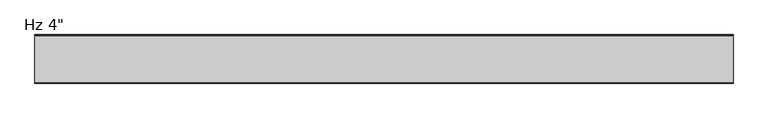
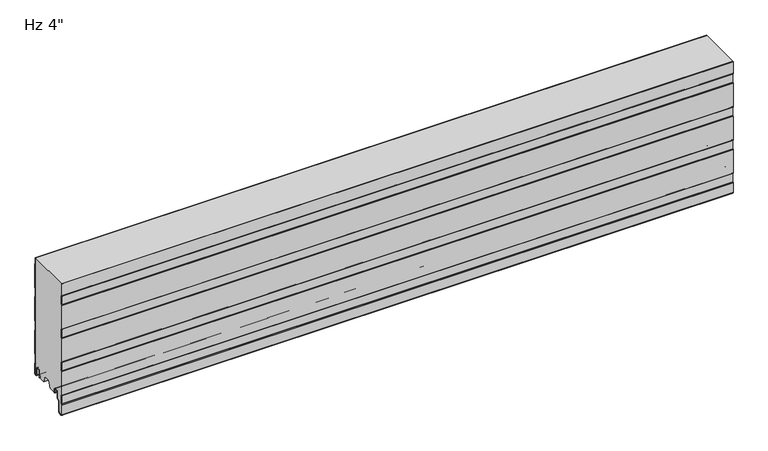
"""IFC4 building model written with IfcOpenShell, lengths in millimetres: plate geometry."""

from ifc_helpers import new_model, si_unit, point, frame, frame_2d, origin, place, context, project, spatial, polyline, circle_curve, trimmed, segment, composite_curve, outline, extrude, source, transform, mapped, element, save
from ifc_brep_helpers import plane_surface, cylinder_surface, revolved_surface, advanced_brep


def plate_778373fd(model_context):
    return source(origin(), model_context, "Body", "SolidModel", [
        extrude(outline(composite_curve([segment(trimmed(circle_curve(frame_2d((-2.3985037, -0.4487243)), 2.3999705), [point((-3.12e-05, -0.3639402))], [point((-2.3985037, -2.8486949))], False, "CARTESIAN"), True, "CONTINUOUS"), segment(polyline([(-2.3985037, -2.8486949), (-3.9516205, -2.8486949)]), True, "CONTINUOUS"), segment(trimmed(circle_curve(frame_2d((-3.9516205, 0.3613604)), 3.2100553), [point((-3.9516205, -2.8486949))], [point((-7.1616758, 0.3613604))], False, "CARTESIAN"), True, "CONTINUOUS"), segment(polyline([(-7.1616758, 0.3613604), (-7.1616758, 13.8905885)]), True, "CONTINUOUS"), segment(trimmed(circle_curve(frame_2d((-9.8816619, 13.8905885)), 2.7199861), [point((-7.1616758, 13.8905885))], [point((-9.8816619, 16.6105746))], True, "CARTESIAN"), True, "CONTINUOUS"), segment(polyline([(-9.8816619, 16.6105746), (-13.5282598, 16.6105746)]), True, "CONTINUOUS"), segment(trimmed(circle_curve(frame_2d((-13.5282598, 13.8905782)), 2.7199964), [point((-13.5282598, 16.6105746))], [point((-16.2482561, 13.8905782))], True, "CARTESIAN"), True, "CONTINUOUS"), segment(polyline([(-16.2482561, 13.8905782), (-16.2482561, 1.189897)]), True, "CONTINUOUS"), segment(trimmed(circle_curve(frame_2d((-17.7722572, 1.189897)), 1.524001), [point((-16.2482561, 1.189897))], [point((-19.2731052, 1.454537))], False, "CARTESIAN"), True, "CONTINUOUS"), segment(polyline([(-19.2731052, 1.454537), (-18.1704393, 7.7080661), (-17.2482561, 7.5454603), (-17.2482561, 13.8905782)]), True, "CONTINUOUS"), segment(trimmed(circle_curve(frame_2d((-13.5282598, 13.8905782)), 3.7199964), [point((-17.2482561, 13.8905782))], [point((-13.5282598, 17.6105746))], False, "CARTESIAN"), True, "CONTINUOUS"), segment(polyline([(-13.5282598, 17.6105746), (-9.8816619, 17.6105746)]), True, "CONTINUOUS"), segment(trimmed(circle_curve(frame_2d((-9.8816619, 13.8905885)), 3.7199861), [point((-9.8816619, 17.6105746))], [point((-6.1616758, 13.8905885))], False, "CARTESIAN"), True, "CONTINUOUS"), segment(polyline([(-6.1616758, 13.8905885), (-6.1616758, 0.3613604)]), True, "CONTINUOUS"), segment(trimmed(circle_curve(frame_2d((-3.9516205, 0.3613604)), 2.2100553), [point((-6.1616758, 0.3613604))], [point((-3.9516205, -1.8486949))], True, "CARTESIAN"), True, "CONTINUOUS"), segment(polyline([(-3.9516205, -1.8486949), (-2.3985037, -1.8486949)]), True, "CONTINUOUS"), segment(trimmed(circle_curve(frame_2d((-2.3985037, -0.4487243)), 1.3999705), [point((-2.3985037, -1.8486949))], [point((-1.0000312, -0.3839769))], True, "CARTESIAN"), True, "CONTINUOUS"), segment(polyline([(-1.0000312, -0.3839769), (-1.0000312, 22.2866086), (-2.2002516, 23.486829), (-2.2002516, 43.1222888), (-1.0000209, 44.3225195), (-1.0000209, 98.4864459), (-2.2002516, 99.6866766), (-2.2002516, 119.3221364), (-1.0000209, 120.5223671), (-1.0000209, 174.6698551), (-2.2002516, 175.8700858), (-2.2002516, 195.5055456), (-1.0000209, 196.7057763), (-1.0000209, 250.8532643), (-2.2002516, 252.0534951), (-2.2002516, 266.4), (-1.2002516, 266.4), (-1.2002516, 252.4677086), (-2.09e-05, 251.2674779), (-2.09e-05, 196.2915628), (-1.2002516, 195.091332), (-1.2002516, 176.2842994), (-2.09e-05, 175.0840687), (-2.09e-05, 120.1081535), (-1.2002516, 118.9079228), (-1.2002516, 100.1008902), (-2.09e-05, 98.9006594), (-2.09e-05, 43.9083059), (-1.2002516, 42.7080752), (-1.2002516, 23.9010426), (-3.12e-05, 22.7008222), (-3.12e-05, -0.3639402)]), True, "CONTINUOUS")], self_intersect=False)), frame((-730.0, 0.0, 0.0), z_axis=(1.0, 0.0, 0.0), x_axis=(0.0, 1.0, 0.0)), (0.0, 0.0, 1.0), 1460.0),
        extrude(outline(composite_curve([segment(trimmed(circle_curve(frame_2d((-73.305791, 0.8654988)), 1.2), [point((-72.105792, 0.8670134))], [point((-74.5042756, 0.8052116))], False, "CARTESIAN"), True, "CONTINUOUS"), segment(polyline([(-74.5042756, 0.8052116), (-74.5042756, 7.3245305)]), True, "CONTINUOUS"), segment(trimmed(circle_curve(frame_2d((-76.8542755, 7.3245305)), 2.3499999), [point((-74.5042756, 7.3245305))], [point((-76.8542755, 9.6745305))], True, "CARTESIAN"), True, "CONTINUOUS"), segment(polyline([(-76.8542755, 9.6745305), (-81.2542753, 9.6745305)]), True, "CONTINUOUS"), segment(trimmed(circle_curve(frame_2d((-81.2542753, 7.3245305)), 2.3499999), [point((-81.2542753, 9.6745305))], [point((-83.6042752, 7.3245305))], True, "CARTESIAN"), True, "CONTINUOUS"), segment(polyline([(-83.6042752, 7.3245305), (-83.6042752, -4.4863817)]), True, "CONTINUOUS"), segment(trimmed(circle_curve(frame_2d((-86.3042752, -4.4863817)), 2.7), [point((-83.6042752, -4.4863817))], [point((-84.3950869, -6.39557))], False, "CARTESIAN"), True, "CONTINUOUS"), segment(polyline([(-84.3950869, -6.39557), (-89.1356458, -11.1361289)]), True, "CONTINUOUS"), segment(trimmed(circle_curve(frame_2d((-88.004275, -12.2674998)), 1.6), [point((-89.1356458, -11.1361289))], [point((-89.604275, -12.2674998))], True, "CARTESIAN"), True, "CONTINUOUS"), segment(polyline([(-89.604275, -12.2674998), (-89.604275, -33.274257)]), True, "CONTINUOUS"), segment(trimmed(circle_curve(frame_2d((-93.304275, -33.274257)), 3.7), [point((-89.604275, -33.274257))], [point((-92.9815079, -36.960152))], False, "CARTESIAN"), True, "CONTINUOUS"), segment(polyline([(-92.9815079, -36.960152), (-97.7284964, -37.3758371)]), True, "CONTINUOUS"), segment(trimmed(circle_curve(frame_2d((-98.0391075, -33.8287598)), 3.5606512), [point((-97.7284964, -37.3758371))], [point((-101.5997587, -33.8287598))], False, "CARTESIAN"), True, "CONTINUOUS"), segment(polyline([(-101.5997587, -33.8287598), (-101.5997587, -12.0182355)]), True, "CONTINUOUS"), segment(trimmed(circle_curve(frame_2d((-100.1998926, -12.0182355)), 1.3998661), [point((-101.5997587, -12.0182355))], [point((-101.1325164, -10.9742825))], False, "CARTESIAN"), True, "CONTINUOUS"), segment(polyline([(-101.1325164, -10.9742825), (-100.3997902, -10.2415563), (-100.3997902, 8.6494291), (-101.1327558, 9.3823947)]), True, "CONTINUOUS"), segment(trimmed(circle_curve(frame_2d((-100.2000446, 10.4264455)), 1.3999972), [point((-101.1327558, 9.3823947))], [point((-101.6000209, 10.4340987))], False, "CARTESIAN"), True, "CONTINUOUS"), segment(polyline([(-101.6000209, 10.4340987), (-101.6000209, 64.1816121)]), True, "CONTINUOUS"), segment(trimmed(circle_curve(frame_2d((-100.2000237, 64.1816121)), 1.3999972), [point((-101.6000209, 64.1816121))], [point((-101.1327348, 65.2256628))], False, "CARTESIAN"), True, "CONTINUOUS"), segment(polyline([(-101.1327348, 65.2256628), (-100.3997902, 65.9586075), (-100.3997902, 84.8492767), (-101.1327558, 85.5822423)]), True, "CONTINUOUS"), segment(trimmed(circle_curve(frame_2d((-100.2000446, 86.6262931)), 1.3999972), [point((-101.1327558, 85.5822423))], [point((-101.6000209, 86.6339463))], False, "CARTESIAN"), True, "CONTINUOUS"), segment(polyline([(-101.6000209, 86.6339463), (-101.6000209, 140.3814597)]), True, "CONTINUOUS"), segment(trimmed(circle_curve(frame_2d((-100.2000237, 140.3814597)), 1.3999972), [point((-101.6000209, 140.3814597))], [point((-101.1327348, 141.4255104))], False, "CARTESIAN"), True, "CONTINUOUS"), segment(polyline([(-101.1327348, 141.4255104), (-100.3997902, 142.1584551), (-100.3997902, 161.0491243), (-101.1327558, 161.7820899)]), True, "CONTINUOUS"), segment(trimmed(circle_curve(frame_2d((-100.2000446, 162.8261407)), 1.3999972), [point((-101.1327558, 161.7820899))], [point((-101.6000209, 162.8337939))], False, "CARTESIAN"), True, "CONTINUOUS"), segment(polyline([(-101.6000209, 162.8337939), (-101.6000209, 216.5813073)]), True, "CONTINUOUS"), segment(trimmed(circle_curve(frame_2d((-100.2000237, 216.5813073)), 1.3999972), [point((-101.6000209, 216.5813073))], [point((-101.1327348, 217.625358))], False, "CARTESIAN"), True, "CONTINUOUS"), segment(polyline([(-101.1327348, 217.625358), (-100.3997902, 218.3583027), (-100.3997902, 237.2489719), (-101.1327558, 237.9819375)]), True, "CONTINUOUS"), segment(trimmed(circle_curve(frame_2d((-100.2000446, 239.0259883)), 1.3999972), [point((-101.1327558, 237.9819375))], [point((-101.6000209, 239.0336415))], False, "CARTESIAN"), True, "CONTINUOUS"), segment(polyline([(-101.6000209, 239.0336415), (-101.6000209, 266.4), (-100.6000209, 266.4), (-100.6000209, 238.8638905), (-99.3997902, 237.6636597), (-99.3997902, 217.9442472), (-100.6000209, 216.7440165), (-100.6000209, 162.6638848), (-99.3997902, 161.4636541), (-99.3997902, 141.7442416), (-100.6000209, 140.5440108), (-100.6000209, 86.4638791), (-99.3997902, 85.2636484), (-99.3997902, 65.5442359), (-100.6000209, 64.3440052), (-100.6000209, 10.2638734), (-99.3997902, 9.0636427), (-99.3997902, -10.6557698), (-100.5997587, -11.8557384), (-100.5997587, -33.8287598)]), True, "CONTINUOUS"), segment(trimmed(circle_curve(frame_2d((-98.0391075, -33.8287598)), 2.5606512), [point((-100.5997587, -33.8287598))], [point((-97.8157308, -36.3796493))], True, "CARTESIAN"), True, "CONTINUOUS"), segment(polyline([(-97.8157308, -36.3796493), (-93.0687422, -35.9639641)]), True, "CONTINUOUS"), segment(trimmed(circle_curve(frame_2d((-93.304275, -33.274257)), 2.7), [point((-93.0687422, -35.9639641))], [point((-90.604275, -33.274257))], True, "CARTESIAN"), True, "CONTINUOUS"), segment(polyline([(-90.604275, -33.274257), (-90.604275, -12.2674998)]), True, "CONTINUOUS"), segment(trimmed(circle_curve(frame_2d((-88.004275, -12.2674998)), 2.6), [point((-90.604275, -12.2674998))], [point((-89.8427526, -10.4290221))], False, "CARTESIAN"), True, "CONTINUOUS"), segment(polyline([(-89.8427526, -10.4290221), (-85.1021937, -5.6884632)]), True, "CONTINUOUS"), segment(trimmed(circle_curve(frame_2d((-86.3042752, -4.4863817)), 1.7), [point((-85.1021937, -5.6884632))], [point((-84.6042752, -4.4863817))], True, "CARTESIAN"), True, "CONTINUOUS"), segment(polyline([(-84.6042752, -4.4863817), (-84.6042752, 7.3245305)]), True, "CONTINUOUS"), segment(trimmed(circle_curve(frame_2d((-81.2542753, 7.3245305)), 3.3499999), [point((-84.6042752, 7.3245305))], [point((-81.2542753, 10.6745305))], False, "CARTESIAN"), True, "CONTINUOUS"), segment(polyline([(-81.2542753, 10.6745305), (-76.8542755, 10.6745305)]), True, "CONTINUOUS"), segment(trimmed(circle_curve(frame_2d((-76.8542755, 7.3245305)), 3.3499999), [point((-76.8542755, 10.6745305))], [point((-73.5042756, 7.3245305))], False, "CARTESIAN"), True, "CONTINUOUS"), segment(polyline([(-73.5042756, 7.3245305), (-73.5042756, 4.6254142), (-72.105792, 4.6254142), (-72.105792, 0.8670134)]), True, "CONTINUOUS")], self_intersect=False)), frame((-730.0, 0.0, 0.0), z_axis=(1.0, 0.0, 0.0), x_axis=(0.0, 1.0, 0.0)), (0.0, 0.0, 1.0), 1460.0),
        advanced_brep(
        [(-730.0, -73.5042756, 7.3245305), (-730.0, -76.8542755, 10.6745305), (-730.0, -81.2542753, 10.6745305), (-730.0, -84.6042752, 7.3245305), (-730.0, -84.6042752, -4.4863817), (-730.0, -85.1021937, -5.6884632), (-730.0, -89.8427526, -10.4290221), (-730.0, -90.604275, -12.2674998), (-730.0, -90.604275, -33.274257), (-730.0, -93.0687422, -35.9639641), (-730.0, -97.8157308, -36.3796493), (-730.0, -100.5997587, -33.8287598), (-730.0, -100.5997587, -11.8557384), (-730.0, -99.3997902, -10.6557698), (-730.0, -99.3997902, 9.0636427), (-730.0, -100.6000209, 10.2638734), (-730.0, -100.6000209, 64.3440052), (-730.0, -99.3997902, 65.5442359), (-730.0, -99.3997902, 85.2636484), (-730.0, -100.6000209, 86.4638791), (-730.0, -100.6000209, 140.5440108), (-730.0, -99.3997902, 141.7442416), (-730.0, -99.3997902, 161.4636541), (-730.0, -100.6000209, 162.6638848), (-730.0, -100.6000209, 216.7440165), (-730.0, -99.3997902, 217.9442472), (-730.0, -99.3997902, 237.6636597), (-730.0, -100.6000209, 238.8638905), (-730.0, -100.6000209, 266.4), (-730.0, -2.2002516, 266.4), (-730.0, -2.2002516, 252.0534951), (-730.0, -1.0000209, 250.8532643), (-730.0, -1.0000209, 196.7057763), (-730.0, -2.2002516, 195.5055456), (-730.0, -2.2002516, 175.8700858), (-730.0, -1.0000209, 174.6698551), (-730.0, -1.0000209, 120.5223671), (-730.0, -2.2002516, 119.3221364), (-730.0, -2.2002516, 99.6866766), (-730.0, -1.0000209, 98.4864459), (-730.0, -1.0000209, 44.3225195), (-730.0, -2.2002516, 43.1222888), (-730.0, -2.2002516, 23.486829), (-730.0, -1.0000312, 22.2866086), (-730.0, -1.0000312, -0.3839769), (-730.0, -2.3985037, -1.8486949), (-730.0, -3.9516205, -1.8486949), (-730.0, -6.1616758, 0.3613604), (-730.0, -6.1616758, 13.8905885), (-730.0, -9.8816619, 17.6105746), (-730.0, -13.5282598, 17.6105746), (-730.0, -17.2482561, 13.8905782), (-730.0, -17.2482561, 7.5454603), (-730.0, -18.1704393, 7.7080661), (-730.0, -19.2731052, 1.454537), (-730.0, -18.724478, 0.0), (-730.0, -33.5050787, 0.0), (-730.0, -39.1301227, 14.9979533), (-730.0, -51.7686274, 14.9979533), (-730.0, -57.3925929, 0.0), (-730.0, -72.47458, 0.0), (-730.0, -72.105792, 0.8670134), (-730.0, -72.105792, 4.6254142), (-730.0, -73.5042756, 4.6254142), (730.0, -73.5042756, 7.3245305), (730.0, -73.5042756, 4.6254142), (730.0, -72.105792, 4.6254142), (730.0, -72.105792, 0.8670134), (730.0, -72.47458, 0.0), (730.0, -57.3925929, 0.0), (730.0, -51.7683653, 14.9979533), (730.0, -39.1301227, 14.9979533), (730.0, -33.5050787, 0.0), (730.0, -18.724478, 0.0), (730.0, -19.2731052, 1.454537), (730.0, -18.1704393, 7.7080661), (730.0, -17.2482561, 7.5454603), (730.0, -17.2482561, 13.8905782), (730.0, -13.5282598, 17.6105746), (730.0, -9.8816619, 17.6105746), (730.0, -6.1616758, 13.8905885), (730.0, -6.1616758, 0.3613604), (730.0, -3.9516205, -1.8486949), (730.0, -2.3985037, -1.8486949), (730.0, -1.0000312, -0.3839769), (730.0, -1.0000312, 22.2866086), (730.0, -2.2002516, 23.486829), (730.0, -2.2002516, 43.1222888), (730.0, -1.0000209, 44.3225195), (730.0, -1.0000209, 98.4864459), (730.0, -2.2002516, 99.6866766), (730.0, -2.2002516, 119.3221364), (730.0, -1.0000209, 120.5223671), (730.0, -1.0000209, 174.6698551), (730.0, -2.2002516, 175.8700858), (730.0, -2.2002516, 195.5055456), (730.0, -1.0000209, 196.7057763), (730.0, -1.0000209, 250.8532643), (730.0, -2.2002516, 252.0534951), (730.0, -2.2002516, 266.4), (730.0, -100.6000209, 266.4), (730.0, -100.6000209, 238.8638905), (730.0, -99.3997902, 237.6636597), (730.0, -99.3997902, 217.9442472), (730.0, -100.6000209, 216.7440165), (730.0, -100.6000209, 162.6638848), (730.0, -99.3997902, 161.4636541), (730.0, -99.3997902, 141.7442416), (730.0, -100.6000209, 140.5440108), (730.0, -100.6000209, 86.4638791), (730.0, -99.3997902, 85.2636484), (730.0, -99.3997902, 65.5442359), (730.0, -100.6000209, 64.3440052), (730.0, -100.6000209, 10.2638734), (730.0, -99.3997902, 9.0636427), (730.0, -99.3997902, -10.6557698), (730.0, -100.5997587, -11.8557384), (730.0, -100.5997587, -33.8287598), (730.0, -97.8157308, -36.3796493), (730.0, -93.0687422, -35.9639641), (730.0, -90.604275, -33.274257), (730.0, -90.604275, -12.2674998), (730.0, -89.8427526, -10.4290221), (730.0, -85.1021937, -5.6884632), (730.0, -84.6042752, -4.4863817), (730.0, -84.6042752, 7.3245305), (730.0, -81.2542753, 10.6745305), (730.0, -76.8542755, 10.6745305)],
        [
            (0, 1, circle_curve(frame((-730.0, -76.8542755, 7.3245305), z_axis=(1.0, 0.0, 0.0), x_axis=(0.0, 0.0, -1.0)), 3.3499999)),
            (1, 2),
            (2, 3, circle_curve(frame((-730.0, -81.2542753, 7.3245305), z_axis=(1.0, 0.0, 0.0), x_axis=(0.0, 0.0, -1.0)), 3.3499999)),
            (3, 4),
            (4, 5, circle_curve(frame((-730.0, -86.3042752, -4.4863817), z_axis=(-1.0, 0.0, 0.0), x_axis=(0.0, 0.0, -1.0)), 1.7)),
            (5, 6),
            (6, 7, circle_curve(frame((-730.0, -88.004275, -12.2674998), z_axis=(1.0, 0.0, 0.0), x_axis=(0.0, 0.0, -1.0)), 2.6)),
            (7, 8),
            (8, 9, circle_curve(frame((-730.0, -93.304275, -33.274257), z_axis=(-1.0, 0.0, 0.0), x_axis=(0.0, 0.0, -1.0)), 2.7)),
            (9, 10),
            (10, 11, circle_curve(frame((-730.0, -98.0391075, -33.8287598), z_axis=(-1.0, 0.0, 0.0), x_axis=(0.0, 0.0, -1.0)), 2.5606512)),
            (11, 12),
            (12, 13),
            (13, 14),
            (14, 15),
            (15, 16),
            (16, 17),
            (17, 18),
            (18, 19),
            (19, 20),
            (20, 21),
            (21, 22),
            (22, 23),
            (23, 24),
            (24, 25),
            (25, 26),
            (26, 27),
            (27, 28),
            (28, 29),
            (29, 30),
            (30, 31),
            (31, 32),
            (32, 33),
            (33, 34),
            (34, 35),
            (35, 36),
            (36, 37),
            (37, 38),
            (38, 39),
            (39, 40),
            (40, 41),
            (41, 42),
            (42, 43),
            (43, 44),
            (44, 45, circle_curve(frame((-730.0, -2.3985037, -0.4487243), z_axis=(-1.0, 0.0, 0.0), x_axis=(0.0, 0.0, -1.0)), 1.3999705)),
            (45, 46),
            (46, 47, circle_curve(frame((-730.0, -3.9516205, 0.3613604), z_axis=(-1.0, 0.0, 0.0), x_axis=(0.0, 0.0, -1.0)), 2.2100553)),
            (47, 48),
            (48, 49, circle_curve(frame((-730.0, -9.8816619, 13.8905885), z_axis=(1.0, 0.0, 0.0), x_axis=(0.0, 0.0, -1.0)), 3.7199861)),
            (49, 50),
            (50, 51, circle_curve(frame((-730.0, -13.5282598, 13.8905782), z_axis=(1.0, 0.0, 0.0), x_axis=(0.0, 0.0, -1.0)), 3.7199964)),
            (51, 52),
            (52, 53),
            (53, 54),
            (54, 55, circle_curve(frame((-730.0, -17.7722572, 1.189897), z_axis=(1.0, 0.0, 0.0), x_axis=(0.0, 0.0, -1.0)), 1.524001)),
            (55, 56),
            (56, 57),
            (57, 58),
            (58, 59),
            (59, 60),
            (60, 61, circle_curve(frame((-730.0, -73.305791, 0.8654988), z_axis=(1.0, 0.0, 0.0), x_axis=(0.0, 0.0, -1.0)), 1.2)),
            (61, 62),
            (62, 63),
            (63, 0),
            (64, 65),
            (65, 66),
            (66, 67),
            (67, 68, circle_curve(frame((730.0, -73.305791, 0.8654988), z_axis=(-1.0, 0.0, 0.0), x_axis=(0.0, 0.0, -1.0)), 1.2)),
            (68, 69),
            (69, 70),
            (70, 71),
            (71, 72),
            (72, 73),
            (73, 74, circle_curve(frame((730.0, -17.7722572, 1.189897), z_axis=(-1.0, 0.0, 0.0), x_axis=(0.0, 0.0, -1.0)), 1.524001)),
            (74, 75),
            (75, 76),
            (76, 77),
            (77, 78, circle_curve(frame((730.0, -13.5282598, 13.8905782), z_axis=(-1.0, 0.0, 0.0), x_axis=(0.0, 0.0, -1.0)), 3.7199964)),
            (78, 79),
            (79, 80, circle_curve(frame((730.0, -9.8816619, 13.8905885), z_axis=(-1.0, 0.0, 0.0), x_axis=(0.0, 0.0, -1.0)), 3.7199861)),
            (80, 81),
            (81, 82, circle_curve(frame((730.0, -3.9516205, 0.3613604), z_axis=(1.0, 0.0, 0.0), x_axis=(0.0, 0.0, -1.0)), 2.2100553)),
            (82, 83),
            (83, 84, circle_curve(frame((730.0, -2.3985037, -0.4487243), z_axis=(1.0, 0.0, 0.0), x_axis=(0.0, 0.0, -1.0)), 1.3999705)),
            (84, 85),
            (85, 86),
            (86, 87),
            (87, 88),
            (88, 89),
            (89, 90),
            (90, 91),
            (91, 92),
            (92, 93),
            (93, 94),
            (94, 95),
            (95, 96),
            (96, 97),
            (97, 98),
            (98, 99),
            (99, 100),
            (100, 101),
            (101, 102),
            (102, 103),
            (103, 104),
            (104, 105),
            (105, 106),
            (106, 107),
            (107, 108),
            (108, 109),
            (109, 110),
            (110, 111),
            (111, 112),
            (112, 113),
            (113, 114),
            (114, 115),
            (115, 116),
            (116, 117),
            (117, 118, circle_curve(frame((730.0, -98.0391075, -33.8287598), z_axis=(1.0, 0.0, 0.0), x_axis=(0.0, 0.0, -1.0)), 2.5606512)),
            (118, 119),
            (119, 120, circle_curve(frame((730.0, -93.304275, -33.274257), z_axis=(1.0, 0.0, 0.0), x_axis=(0.0, 0.0, -1.0)), 2.7)),
            (120, 121),
            (121, 122, circle_curve(frame((730.0, -88.004275, -12.2674998), z_axis=(-1.0, 0.0, 0.0), x_axis=(0.0, 0.0, -1.0)), 2.6)),
            (122, 123),
            (123, 124, circle_curve(frame((730.0, -86.3042752, -4.4863817), z_axis=(1.0, 0.0, 0.0), x_axis=(0.0, 0.0, -1.0)), 1.7)),
            (124, 125),
            (125, 126, circle_curve(frame((730.0, -81.2542753, 7.3245305), z_axis=(-1.0, 0.0, 0.0), x_axis=(0.0, 0.0, -1.0)), 3.3499999)),
            (126, 127),
            (127, 64, circle_curve(frame((730.0, -76.8542755, 7.3245305), z_axis=(-1.0, 0.0, 0.0), x_axis=(0.0, 0.0, -1.0)), 3.3499999)),
            (48, 80),
            (79, 49),
            (47, 81),
            (46, 82),
            (45, 83),
            (44, 84),
            (43, 85),
            (42, 86),
            (41, 87),
            (40, 88),
            (39, 89),
            (38, 90),
            (37, 91),
            (36, 92),
            (35, 93),
            (34, 94),
            (33, 95),
            (32, 96),
            (31, 97),
            (30, 98),
            (29, 99),
            (56, 72),
            (71, 57),
            (55, 73),
            (54, 74),
            (53, 75),
            (52, 76),
            (51, 77),
            (50, 78),
            (70, 58),
            (0, 64),
            (127, 1),
            (63, 65),
            (62, 66),
            (61, 67),
            (60, 68),
            (10, 118),
            (117, 11),
            (9, 119),
            (8, 120),
            (7, 121),
            (6, 122),
            (5, 123),
            (4, 124),
            (3, 125),
            (2, 126),
            (59, 69),
            (116, 12),
            (13, 115),
            (114, 14),
            (113, 15),
            (112, 16),
            (17, 111),
            (110, 18),
            (109, 19),
            (108, 20),
            (21, 107),
            (106, 22),
            (105, 23),
            (104, 24),
            (25, 103),
            (102, 26),
            (101, 27),
            (100, 28),
        ],
        [
            plane_surface(frame((-730.0, -100.6000209, 532.8637656), z_axis=(-1.0, 0.0, 0.0), x_axis=(0.0, -1.0, 0.0))),
            plane_surface(frame((730.0, -100.6000209, 532.8637656), z_axis=(1.0, 0.0, 0.0), x_axis=(0.0, -1.0, 0.0))),
            revolved_surface(polyline([(730.0, -9.8816619, 10.1706024), (-730.0, -9.8816619, 10.1706024)]), (-730.0, -9.8816619, 13.8905885), (1.0, 0.0, 0.0)),
            plane_surface(frame((-730.0, -6.1616758, 13.8905885), z_axis=(0.0, -1.0, 0.0), x_axis=(1.0, 0.0, 0.0))),
            cylinder_surface(frame((-730.0, -3.9516205, 0.3613604), z_axis=(-1.0, 0.0, 0.0), x_axis=(0.0, 0.0, -1.0)), 2.2100553),
            plane_surface(frame((-730.0, -3.9516205, -1.8486949), z_axis=(0.0, 0.0, -1.0), x_axis=(1.0, 0.0, 0.0))),
            cylinder_surface(frame((-730.0, -2.3985037, -0.4487243), z_axis=(-1.0, 0.0, 0.0), x_axis=(0.0, 0.0, -1.0)), 1.3999705),
            plane_surface(frame((-730.0, -1.0000312, -0.3839769), z_axis=(0.0, 1.0, 0.0), x_axis=(1.0, 0.0, 0.0))),
            plane_surface(frame((-730.0, -1.0000312, 22.2866086), z_axis=(0.0, 0.7071067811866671, 0.7071067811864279), x_axis=(1.0, 0.0, 0.0))),
            plane_surface(frame((-730.0, -2.2002516, 33.3045589), z_axis=(0.0, 1.0, 0.0), x_axis=(1.0, 0.0, 0.0))),
            plane_surface(frame((-730.0, -2.2002516, 43.1222888), z_axis=(0.0, 0.7071067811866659, -0.7071067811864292), x_axis=(1.0, 0.0, 0.0))),
            plane_surface(frame((-730.0, -1.0000209, 44.3225195), z_axis=(0.0, 1.0, 0.0), x_axis=(1.0, 0.0, 0.0))),
            plane_surface(frame((-730.0, -1.0000209, 98.4864459), z_axis=(0.0, 0.7071067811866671, 0.7071067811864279), x_axis=(1.0, 0.0, 0.0))),
            plane_surface(frame((-730.0, -2.2002516, 109.5044065), z_axis=(0.0, 1.0, 0.0), x_axis=(1.0, 0.0, 0.0))),
            plane_surface(frame((-730.0, -2.2002516, 119.3221364), z_axis=(0.0, 0.7071067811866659, -0.7071067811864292), x_axis=(1.0, 0.0, 0.0))),
            plane_surface(frame((-730.0, -1.0000209, 120.5223671), z_axis=(0.0, 1.0, 0.0), x_axis=(1.0, 0.0, 0.0))),
            plane_surface(frame((-730.0, -1.0000209, 174.6698551), z_axis=(0.0, 0.7071067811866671, 0.7071067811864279), x_axis=(1.0, 0.0, 0.0))),
            plane_surface(frame((-730.0, -2.2002516, 185.6878157), z_axis=(0.0, 1.0, 0.0), x_axis=(1.0, 0.0, 0.0))),
            plane_surface(frame((-730.0, -2.2002516, 195.5055456), z_axis=(0.0, 0.7071067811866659, -0.7071067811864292), x_axis=(1.0, 0.0, 0.0))),
            plane_surface(frame((-730.0, -1.0000209, 196.7057763), z_axis=(0.0, 1.0, 0.0), x_axis=(1.0, 0.0, 0.0))),
            plane_surface(frame((-730.0, -1.0000209, 250.8532643), z_axis=(0.0, 0.7071067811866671, 0.7071067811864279), x_axis=(1.0, 0.0, 0.0))),
            plane_surface(frame((-730.0, -2.2002516, 261.8712249), z_axis=(0.0, 1.0, 0.0), x_axis=(1.0, 0.0, 0.0))),
            plane_surface(frame((-730.0, -39.1301227, 14.9979533), z_axis=(0.0, -0.9363125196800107, -0.35116785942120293), x_axis=(1.0, 0.0, 0.0))),
            plane_surface(frame((-730.0, -33.5050787, 0.0), z_axis=(0.0, 0.0, -1.0), x_axis=(1.0, 0.0, 0.0))),
            revolved_surface(polyline([(730.0, -17.7722572, -0.33410399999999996), (-730.0, -17.7722572, -0.33410399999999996)]), (-730.0, -17.7722572, 1.189897), (1.0, 0.0, 0.0)),
            plane_surface(frame((-730.0, -19.2731052, 1.454537), z_axis=(0.0, 0.9848077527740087, -0.1736481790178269), x_axis=(1.0, 0.0, 0.0))),
            plane_surface(frame((-730.0, -18.1704393, 7.7080661), z_axis=(0.0, -0.17364817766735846, -0.9848077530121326), x_axis=(1.0, 0.0, 0.0))),
            plane_surface(frame((-730.0, -17.2482561, 7.5454603), z_axis=(0.0, 1.0, 0.0), x_axis=(1.0, 0.0, 0.0))),
            revolved_surface(polyline([(730.0, -13.5282598, 10.1705818), (-730.0, -13.5282598, 10.1705818)]), (-730.0, -13.5282598, 13.8905782), (1.0, 0.0, 0.0)),
            plane_surface(frame((-730.0, -13.5282598, 17.6105746), z_axis=(0.0, 0.0, -1.0), x_axis=(1.0, 0.0, 0.0))),
            plane_surface(frame((730.0, -39.1301227, 14.9979533), z_axis=(0.0, 0.0, -1.0), x_axis=(-1.0, 0.0, 0.0))),
            revolved_surface(polyline([(730.0, -76.8542755, 3.9745306), (-730.0, -76.8542755, 3.9745306)]), (-730.0, -76.8542755, 7.3245305), (1.0, 0.0, 0.0)),
            plane_surface(frame((-730.0, -73.5042756, 7.3245305), z_axis=(0.0, -1.0, 0.0), x_axis=(1.0, 0.0, 0.0))),
            plane_surface(frame((-730.0, -73.5042756, 4.6254142), z_axis=(0.0, 0.0, -1.0), x_axis=(1.0, 0.0, 0.0))),
            plane_surface(frame((-730.0, -72.105792, 4.6254142), z_axis=(0.0, -1.0, 0.0), x_axis=(1.0, 0.0, 0.0))),
            revolved_surface(polyline([(730.0, -73.305791, -0.33450119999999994), (-730.0, -73.305791, -0.33450119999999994)]), (-730.0, -73.305791, 0.8654988), (1.0, 0.0, 0.0)),
            cylinder_surface(frame((-730.0, -98.0391075, -33.8287598), z_axis=(-1.0, 0.0, 0.0), x_axis=(0.0, 0.0, -1.0)), 2.5606512),
            plane_surface(frame((-730.0, -97.8157308, -36.3796493), z_axis=(0.0, 0.08723436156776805, -0.9961878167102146), x_axis=(1.0, 0.0, 0.0))),
            cylinder_surface(frame((-730.0, -93.304275, -33.274257), z_axis=(-1.0, 0.0, 0.0), x_axis=(0.0, 0.0, -1.0)), 2.7),
            plane_surface(frame((-730.0, -90.604275, -33.274257), z_axis=(0.0, 1.0, 0.0), x_axis=(1.0, 0.0, 0.0))),
            revolved_surface(polyline([(730.0, -88.004275, -14.8674998), (-730.0, -88.004275, -14.8674998)]), (-730.0, -88.004275, -12.2674998), (1.0, 0.0, 0.0)),
            plane_surface(frame((-730.0, -89.8427526, -10.4290221), z_axis=(0.0, 0.7071067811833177, -0.7071067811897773), x_axis=(1.0, 0.0, 0.0))),
            cylinder_surface(frame((-730.0, -86.3042752, -4.4863817), z_axis=(-1.0, 0.0, 0.0), x_axis=(0.0, 0.0, -1.0)), 1.7),
            plane_surface(frame((-730.0, -84.6042752, -4.4863817), z_axis=(0.0, 1.0, 0.0), x_axis=(1.0, 0.0, 0.0))),
            revolved_surface(polyline([(730.0, -81.2542753, 3.9745306), (-730.0, -81.2542753, 3.9745306)]), (-730.0, -81.2542753, 7.3245305), (1.0, 0.0, 0.0)),
            plane_surface(frame((-730.0, -81.2542753, 10.6745305), z_axis=(0.0, 0.0, -1.0), x_axis=(1.0, 0.0, 0.0))),
            plane_surface(frame((-730.0, -72.47458, 0.0), z_axis=(0.0, 0.0, -1.0), x_axis=(1.0, 0.0, 0.0))),
            plane_surface(frame((-730.0, -57.3925929, 0.0), z_axis=(0.0, 0.9363292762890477, -0.3511231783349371), x_axis=(1.0, 0.0, 0.0))),
            plane_surface(frame((-730.0, -100.5997587, -11.8557384), z_axis=(0.0, -1.0, 0.0), x_axis=(1.0, 0.0, 0.0))),
            plane_surface(frame((-730.0, -99.3997902, 9.0636427), z_axis=(0.0, -1.0, 0.0), x_axis=(1.0, 0.0, 0.0))),
            plane_surface(frame((-730.0, -99.3997902, -10.6557698), z_axis=(0.0, -0.7071067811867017, 0.7071067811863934), x_axis=(1.0, 0.0, 0.0))),
            plane_surface(frame((-730.0, -100.6000209, 10.2638734), z_axis=(0.0, -0.7071067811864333, -0.7071067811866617), x_axis=(1.0, 0.0, 0.0))),
            plane_surface(frame((-730.0, -100.6000209, 64.3440052), z_axis=(0.0, -1.0, 0.0), x_axis=(1.0, 0.0, 0.0))),
            plane_surface(frame((-730.0, -99.3997902, 85.2636484), z_axis=(0.0, -1.0, 0.0), x_axis=(1.0, 0.0, 0.0))),
            plane_surface(frame((-730.0, -99.3997902, 65.5442359), z_axis=(0.0, -0.7071067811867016, 0.7071067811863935), x_axis=(1.0, 0.0, 0.0))),
            plane_surface(frame((-730.0, -100.6000209, 86.4638791), z_axis=(0.0, -0.7071067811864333, -0.7071067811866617), x_axis=(1.0, 0.0, 0.0))),
            plane_surface(frame((-730.0, -100.6000209, 140.5440108), z_axis=(0.0, -1.0, 0.0), x_axis=(1.0, 0.0, 0.0))),
            plane_surface(frame((-730.0, -99.3997902, 161.4636541), z_axis=(0.0, -1.0, 0.0), x_axis=(1.0, 0.0, 0.0))),
            plane_surface(frame((-730.0, -99.3997902, 141.7442416), z_axis=(0.0, -0.7071067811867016, 0.7071067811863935), x_axis=(1.0, 0.0, 0.0))),
            plane_surface(frame((-730.0, -100.6000209, 162.6638848), z_axis=(0.0, -0.7071067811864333, -0.7071067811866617), x_axis=(1.0, 0.0, 0.0))),
            plane_surface(frame((-730.0, -100.6000209, 216.7440165), z_axis=(0.0, -1.0, 0.0), x_axis=(1.0, 0.0, 0.0))),
            plane_surface(frame((-730.0, -99.3997902, 237.6636597), z_axis=(0.0, -1.0, 0.0), x_axis=(1.0, 0.0, 0.0))),
            plane_surface(frame((-730.0, -99.3997902, 217.9442472), z_axis=(0.0, -0.7071067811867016, 0.7071067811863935), x_axis=(1.0, 0.0, 0.0))),
            plane_surface(frame((-730.0, -100.6000209, 238.8638905), z_axis=(0.0, -0.7071067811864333, -0.7071067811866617), x_axis=(1.0, 0.0, 0.0))),
            plane_surface(frame((-730.0, -100.6000209, 292.9440222), z_axis=(0.0, -1.0, 0.0), x_axis=(1.0, 0.0, 0.0))),
            plane_surface(frame((730.0, 11.9999791, 266.4), z_axis=(0.0, 0.0, 1.0), x_axis=(-1.0, 0.0, 0.0))),
        ],
        [
            (0, [[1, 2, 3, 4, 5, 6, 7, 8, 9, 10, 11, 12, 13, 14, 15, 16, 17, 18, 19, 20, 21, 22, 23, 24, 25, 26, 27, 28, 29, 30, 31, 32, 33, 34, 35, 36, 37, 38, 39, 40, 41, 42, 43, 44, 45, 46, 47, 48, 49, 50, 51, 52, 53, 54, 55, 56, 57, 58, 59, 60, 61, 62, 63, 64]]),
            (1, [[65, 66, 67, 68, 69, 70, 71, 72, 73, 74, 75, 76, 77, 78, 79, 80, 81, 82, 83, 84, 85, 86, 87, 88, 89, 90, 91, 92, 93, 94, 95, 96, 97, 98, 99, 100, 101, 102, 103, 104, 105, 106, 107, 108, 109, 110, 111, 112, 113, 114, 115, 116, 117, 118, 119, 120, 121, 122, 123, 124, 125, 126, 127, 128]]),
            (2, [[129, -80, 130, -49]]),
            (3, [[131, -81, -129, -48]]),
            (4, [[132, -82, -131, -47]]),
            (5, [[133, -83, -132, -46]]),
            (6, [[134, -84, -133, -45]]),
            (7, [[135, -85, -134, -44]]),
            (8, [[136, -86, -135, -43]]),
            (9, [[137, -87, -136, -42]]),
            (10, [[138, -88, -137, -41]]),
            (11, [[139, -89, -138, -40]]),
            (12, [[140, -90, -139, -39]]),
            (13, [[141, -91, -140, -38]]),
            (14, [[142, -92, -141, -37]]),
            (15, [[143, -93, -142, -36]]),
            (16, [[144, -94, -143, -35]]),
            (17, [[145, -95, -144, -34]]),
            (18, [[146, -96, -145, -33]]),
            (19, [[147, -97, -146, -32]]),
            (20, [[148, -98, -147, -31]]),
            (21, [[-30, 149, -99, -148]]),
            (22, [[150, -72, 151, -57]]),
            (23, [[152, -73, -150, -56]]),
            (24, [[153, -74, -152, -55]]),
            (25, [[154, -75, -153, -54]]),
            (26, [[155, -76, -154, -53]]),
            (27, [[156, -77, -155, -52]]),
            (28, [[157, -78, -156, -51]]),
            (29, [[-130, -79, -157, -50]]),
            (30, [[158, -58, -151, -71]]),
            (31, [[159, -128, 160, -1]]),
            (32, [[161, -65, -159, -64]]),
            (33, [[162, -66, -161, -63]]),
            (34, [[163, -67, -162, -62]]),
            (35, [[164, -68, -163, -61]]),
            (36, [[165, -118, 166, -11]]),
            (37, [[167, -119, -165, -10]]),
            (38, [[168, -120, -167, -9]]),
            (39, [[169, -121, -168, -8]]),
            (40, [[170, -122, -169, -7]]),
            (41, [[171, -123, -170, -6]]),
            (42, [[172, -124, -171, -5]]),
            (43, [[173, -125, -172, -4]]),
            (44, [[174, -126, -173, -3]]),
            (45, [[-160, -127, -174, -2]]),
            (46, [[175, -69, -164, -60]]),
            (47, [[-158, -70, -175, -59]]),
            (48, [[-166, -117, 176, -12]]),
            (49, [[177, -115, 178, -14]]),
            (50, [[-176, -116, -177, -13]]),
            (51, [[-178, -114, 179, -15]]),
            (52, [[-179, -113, 180, -16]]),
            (53, [[181, -111, 182, -18]]),
            (54, [[-180, -112, -181, -17]]),
            (55, [[-182, -110, 183, -19]]),
            (56, [[-183, -109, 184, -20]]),
            (57, [[185, -107, 186, -22]]),
            (58, [[-184, -108, -185, -21]]),
            (59, [[-186, -106, 187, -23]]),
            (60, [[-187, -105, 188, -24]]),
            (61, [[189, -103, 190, -26]]),
            (62, [[-188, -104, -189, -25]]),
            (63, [[-190, -102, 191, -27]]),
            (64, [[-101, 192, -28, -191]]),
            (65, [[-192, -100, -149, -29]]),
        ],
    ),
    ])


if __name__ == "__main__":
    model = new_model("IFC4")
    model_context = context("Model", 3, world=origin())
    ifc_project = project(units=[si_unit("LENGTHUNIT", "METRE", prefix="MILLI")], contexts=[model_context])
    site = spatial("IfcSite", under=ifc_project)
    building = spatial("IfcBuilding", under=site)
    placement = place(None, origin())
    plate_shape = plate_778373fd(model_context)
    element("IfcPlate", 1, ObjectType="KIP-42-KRHF-R19-CP-Hz-SL_SL : Hz 4\"", at=placement, inside=building, context=model_context, shape_type="MappedRepresentation", body=[
        mapped(plate_shape, transform((0.0, 0.0, 0.0), x_axis=(1.0, 0.0, 0.0), y_axis=(0.0, 1.0, 0.0), z_axis=(0.0, 0.0, 1.0))),
    ])
    save(model, "model.ifc")
